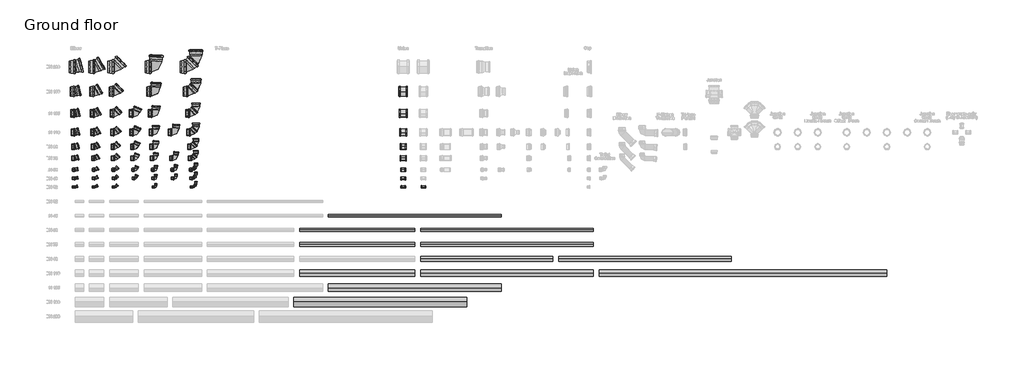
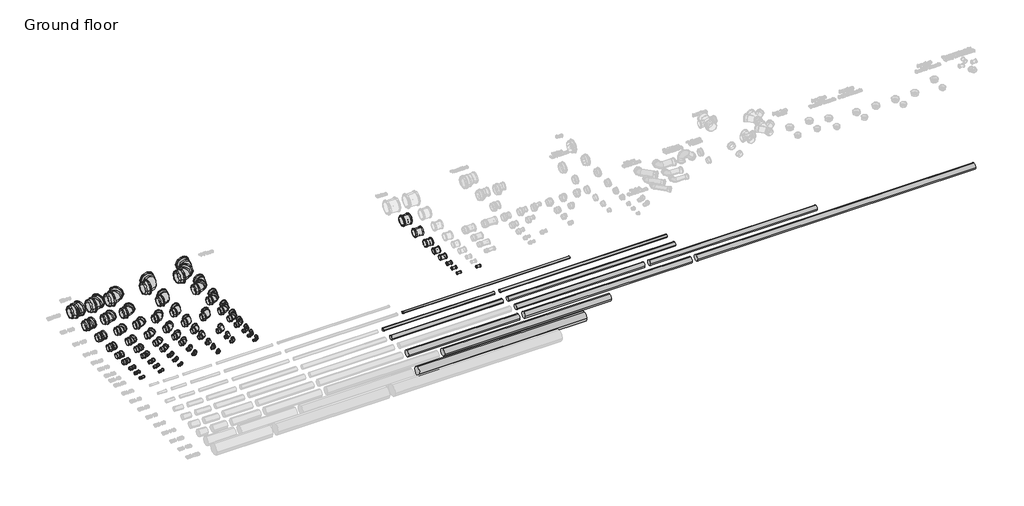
# One storey, part 2 of 9: 73 pipe fittings, 12 pipe segments.
"""IFC4 building model written with IfcOpenShell, lengths in millimetres."""

from ifc_helpers import new_model, si_unit, point, frame, frame_2d, origin, place, context, project, spatial, circle_curve, trimmed, segment, composite_curve, outline, extrude, transform, mapped, element, save
from components import rpp_0c612c17, rpp_c877f22e, rpp_06d6b4b1, rpp_df02b0ba, rpp_cbc30ce8, rpp_6e70d59e, rpp_6ae6ac8c, rpp_a5cbb0f9, rpp_84a9ba76, rpp_5fe12256, rpp_f83cce01, rpp_75d199fe, rpp_5285ed11, rpp_97674159, rpp_16dab9d7, rpp_6b59349f, rpp_5e2e64cf, rpp_0082672b, rpp_add493c2, rpp_b21e3a91, rpp_3f5632bd, rpp_f0f5f403, rpp_70257316, rpp_7ac03bf6, rpp_7928c06b, rpp_419d8c31, rpp_e562054b, rpp_2c8e5e39, rpp_fd2b5315, rpp_0ef57ba2, rpp_faf4a86c, rpp_43926e8d, rpp_54957289, rpp_1a07046c, rpp_2e0a0249, rpp_8358bbfe, rpp_47b7cab4, rpp_9e0b4bd6, rpp_d04c1ebb, rpp_31e62ba4, rpp_015da664, rpp_1f847ae8, rpp_570f9ba4, rpp_260d73b4, rpp_eaa9c95d, rpp_c4f2875f, rpp_8af34354, rpp_c20ba653, rpp_37d01bf3, rpp_2288d6af, rpp_f37a2bfc, rpp_27557139, rpp_dd20bded, rpp_5b691334, rpp_96adb8f6, rpp_3cfaf62b, rpp_a2276557, rpp_016cef04, rpp_9b603699, rpp_967ad729, rpp_dd01ceee, rpp_bc04890f, rpp_4773ea2c, rpp_0868c568

model = new_model("IFC4")

# Units and contexts
model_context = context("Model", 3, world=origin())
ifc_project = project(units=[si_unit("LENGTHUNIT", "METRE", prefix="MILLI")], contexts=[model_context])

# Site, building, storey
site = spatial("IfcSite", under=ifc_project)
building = spatial("IfcBuilding", under=site)
storey = spatial("IfcBuildingStorey", under=building, Name="Ground floor", Elevation=0.0)

# Pipe fittings
placement = place(None, origin())
rpp_shape = rpp_0c612c17(model_context)
element("IfcPipeFitting", 1, ObjectType="RAUPIANO PLUS Double socket : RPP", at=placement, inside=storey, context=model_context, shape_type="MappedRepresentation", body=[
    mapped(rpp_shape, transform((6050.0, 0.0, 0.0), x_axis=(1.0, 0.0, 0.0), y_axis=(0.0, 0.0, 1.0), z_axis=(0.0, -1.0, 0.0))),
])
rpp_2_shape = rpp_c877f22e(model_context)
element("IfcPipeFitting", 2, ObjectType="RAUPIANO PLUS Double socket : RPP", at=placement, inside=storey, context=model_context, shape_type="MappedRepresentation", body=[
    mapped(rpp_2_shape, transform((5700.0, 150.0, 0.0), x_axis=(1.0, 0.0, 0.0), y_axis=(0.0, 0.0, 1.0), z_axis=(0.0, -1.0, 0.0))),
])
rpp_3_shape = rpp_06d6b4b1(model_context)
element("IfcPipeFitting", 3, ObjectType="RAUPIANO PLUS Double socket : RPP", at=placement, inside=storey, context=model_context, shape_type="MappedRepresentation", body=[
    mapped(rpp_3_shape, transform((5700.0, 300.0, 0.0), x_axis=(1.0, 0.0, 0.0), y_axis=(0.0, 0.0, 1.0), z_axis=(0.0, -1.0, 0.0))),
])
rpp_4_shape = rpp_df02b0ba(model_context)
element("IfcPipeFitting", 4, ObjectType="RAUPIANO PLUS Double socket : RPP", at=placement, inside=storey, context=model_context, shape_type="MappedRepresentation", body=[
    mapped(rpp_4_shape, transform((5700.0, 500.0, 0.0), x_axis=(1.0, 0.0, 0.0), y_axis=(0.0, 0.0, 1.0), z_axis=(0.0, -1.0, 0.0))),
])
rpp_5_shape = rpp_cbc30ce8(model_context)
element("IfcPipeFitting", 5, ObjectType="RAUPIANO PLUS Double socket : RPP", at=placement, inside=storey, context=model_context, shape_type="MappedRepresentation", body=[
    mapped(rpp_5_shape, transform((5700.0, 700.0, 0.0), x_axis=(1.0, 0.0, 0.0), y_axis=(0.0, 0.0, 1.0), z_axis=(0.0, -1.0, 0.0))),
])
rpp_6_shape = rpp_6e70d59e(model_context)
element("IfcPipeFitting", 6, ObjectType="RAUPIANO PLUS Double socket : RPP", at=placement, inside=storey, context=model_context, shape_type="MappedRepresentation", body=[
    mapped(rpp_6_shape, transform((5700.0, 950.0, 0.0), x_axis=(1.0, 0.0, 0.0), y_axis=(0.0, 0.0, 1.0), z_axis=(0.0, -1.0, 0.0))),
])
rpp_7_shape = rpp_6ae6ac8c(model_context)
element("IfcPipeFitting", 7, ObjectType="RAUPIANO PLUS Double socket : RPP", at=placement, inside=storey, context=model_context, shape_type="MappedRepresentation", body=[
    mapped(rpp_7_shape, transform((5700.0, 1280.0, 0.0), x_axis=(1.0, 0.0, 0.0), y_axis=(0.0, 0.0, 1.0), z_axis=(0.0, -1.0, 0.0))),
])
rpp_8_shape = rpp_a5cbb0f9(model_context)
element("IfcPipeFitting", 8, ObjectType="RAUPIANO PLUS Double socket : RPP", at=placement, inside=storey, context=model_context, shape_type="MappedRepresentation", body=[
    mapped(rpp_8_shape, transform((5700.0, 1660.0, 0.0), x_axis=(1.0, 0.0, 0.0), y_axis=(0.0, 0.0, 1.0), z_axis=(0.0, -1.0, 0.0))),
])
rpp_9_shape = rpp_84a9ba76(model_context)
element("IfcPipeFitting", 9, ObjectType="RAUPIANO PLUS Bend : RPP", at=placement, inside=storey, context=model_context, shape_type="MappedRepresentation", body=[
    mapped(rpp_9_shape, transform((700.0, 0.0, 0.0), x_axis=(1.0, 0.0, 0.0), y_axis=(0.0, 1.0, 0.0), z_axis=(0.0, 0.0, 1.0))),
])
element("IfcPipeFitting", 10, ObjectType="RAUPIANO PLUS Bend : RPP", at=placement, inside=storey, context=model_context, shape_type="MappedRepresentation", body=[
    mapped(rpp_9_shape, transform((2054.4198969, 0.0, 0.0), x_axis=(1.0, 0.0, 0.0), y_axis=(0.0, 1.0, 0.0), z_axis=(0.0, 0.0, 1.0))),
])
rpp_10_shape = rpp_5fe12256(model_context)
element("IfcPipeFitting", 11, ObjectType="RAUPIANO PLUS Bend : RPP", at=placement, inside=storey, context=model_context, shape_type="MappedRepresentation", body=[
    mapped(rpp_10_shape, transform((2100.0, 45.5801031, 0.0), x_axis=(0.707106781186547, 0.7071067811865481, 0.0), y_axis=(-0.7071067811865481, 0.707106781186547, 0.0), z_axis=(0.0, 0.0, 1.0))),
])
rpp_11_shape = rpp_f83cce01(model_context)
element("IfcPipeFitting", 12, ObjectType="RAUPIANO PLUS Bend : RPP", at=placement, inside=storey, context=model_context, shape_type="MappedRepresentation", body=[
    mapped(rpp_11_shape, transform((700.0, 150.0, 0.0), x_axis=(1.0, 0.0, 0.0), y_axis=(0.0, 1.0, 0.0), z_axis=(0.0, 0.0, 1.0))),
])
element("IfcPipeFitting", 13, ObjectType="RAUPIANO PLUS Bend : RPP", at=placement, inside=storey, context=model_context, shape_type="MappedRepresentation", body=[
    mapped(rpp_11_shape, transform((2046.9669914, 150.0, 0.0), x_axis=(1.0, 0.0, 0.0), y_axis=(0.0, 1.0, 0.0), z_axis=(0.0, 0.0, 1.0))),
])
rpp_12_shape = rpp_75d199fe(model_context)
element("IfcPipeFitting", 14, ObjectType="RAUPIANO PLUS Bend : RPP", at=placement, inside=storey, context=model_context, shape_type="MappedRepresentation", body=[
    mapped(rpp_12_shape, transform((2100.0, 203.0330086, 0.0), x_axis=(0.707106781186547, 0.7071067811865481, 0.0), y_axis=(-0.7071067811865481, 0.707106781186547, 0.0), z_axis=(0.0, 0.0, 1.0))),
])
rpp_13_shape = rpp_5285ed11(model_context)
element("IfcPipeFitting", 15, ObjectType="RAUPIANO PLUS Bend : RPP", at=placement, inside=storey, context=model_context, shape_type="MappedRepresentation", body=[
    mapped(rpp_13_shape, transform((700.0, 300.0, 0.0), x_axis=(1.0, 0.0, 0.0), y_axis=(0.0, 1.0, 0.0), z_axis=(0.0, 0.0, 1.0))),
])
element("IfcPipeFitting", 16, ObjectType="RAUPIANO PLUS Bend : RPP", at=placement, inside=storey, context=model_context, shape_type="MappedRepresentation", body=[
    mapped(rpp_13_shape, transform((2043.4314575, 300.0, 0.0), x_axis=(1.0, 0.0, 0.0), y_axis=(0.0, 1.0, 0.0), z_axis=(0.0, 0.0, 1.0))),
])
rpp_14_shape = rpp_97674159(model_context)
element("IfcPipeFitting", 17, ObjectType="RAUPIANO PLUS Bend : RPP", at=placement, inside=storey, context=model_context, shape_type="MappedRepresentation", body=[
    mapped(rpp_14_shape, transform((2100.0, 356.5685425, 0.0), x_axis=(0.707106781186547, 0.7071067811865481, 0.0), y_axis=(-0.7071067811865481, 0.707106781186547, 0.0), z_axis=(0.0, 0.0, 1.0))),
])
rpp_15_shape = rpp_16dab9d7(model_context)
element("IfcPipeFitting", 18, ObjectType="RAUPIANO PLUS Bend : RPP", at=placement, inside=storey, context=model_context, shape_type="MappedRepresentation", body=[
    mapped(rpp_15_shape, transform((700.0, 500.0, 0.0), x_axis=(1.0, 0.0, 0.0), y_axis=(0.0, 1.0, 0.0), z_axis=(0.0, 0.0, 1.0))),
])
element("IfcPipeFitting", 19, ObjectType="RAUPIANO PLUS Bend : RPP", at=placement, inside=storey, context=model_context, shape_type="MappedRepresentation", body=[
    mapped(rpp_15_shape, transform((2035.9361256, 500.0, 0.0), x_axis=(1.0, 0.0, 0.0), y_axis=(0.0, 1.0, 0.0), z_axis=(0.0, 0.0, 1.0))),
])
rpp_16_shape = rpp_6b59349f(model_context)
element("IfcPipeFitting", 20, ObjectType="RAUPIANO PLUS Bend : RPP", at=placement, inside=storey, context=model_context, shape_type="MappedRepresentation", body=[
    mapped(rpp_16_shape, transform((2100.0, 564.0638744, 0.0), x_axis=(0.707106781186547, 0.7071067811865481, 0.0), y_axis=(-0.7071067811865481, 0.707106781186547, 0.0), z_axis=(0.0, 0.0, 1.0))),
])
rpp_17_shape = rpp_5e2e64cf(model_context)
element("IfcPipeFitting", 21, ObjectType="RAUPIANO PLUS Bend : RPP", at=placement, inside=storey, context=model_context, shape_type="MappedRepresentation", body=[
    mapped(rpp_17_shape, transform((700.0, 700.0, 0.0), x_axis=(1.0, 0.0, 0.0), y_axis=(0.0, 1.0, 0.0), z_axis=(0.0, 0.0, 1.0))),
])
element("IfcPipeFitting", 22, ObjectType="RAUPIANO PLUS Bend : RPP", at=placement, inside=storey, context=model_context, shape_type="MappedRepresentation", body=[
    mapped(rpp_17_shape, transform((2030.7035354, 700.0, 0.0), x_axis=(1.0, 0.0, 0.0), y_axis=(0.0, 1.0, 0.0), z_axis=(0.0, 0.0, 1.0))),
])
rpp_18_shape = rpp_0082672b(model_context)
element("IfcPipeFitting", 23, ObjectType="RAUPIANO PLUS Bend : RPP", at=placement, inside=storey, context=model_context, shape_type="MappedRepresentation", body=[
    mapped(rpp_18_shape, transform((2100.0, 769.2964646, 0.0), x_axis=(0.707106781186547, 0.7071067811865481, 0.0), y_axis=(-0.7071067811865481, 0.707106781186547, 0.0), z_axis=(0.0, 0.0, 1.0))),
])
rpp_19_shape = rpp_add493c2(model_context)
element("IfcPipeFitting", 24, ObjectType="RAUPIANO PLUS Bend : RPP", at=placement, inside=storey, context=model_context, shape_type="MappedRepresentation", body=[
    mapped(rpp_19_shape, transform((700.0, 950.0, 0.0), x_axis=(1.0, 0.0, 0.0), y_axis=(0.0, 1.0, 0.0), z_axis=(0.0, 0.0, 1.0))),
])
element("IfcPipeFitting", 25, ObjectType="RAUPIANO PLUS Bend : RPP", at=placement, inside=storey, context=model_context, shape_type="MappedRepresentation", body=[
    mapped(rpp_19_shape, transform((2022.1475434, 950.0, 0.0), x_axis=(1.0, 0.0, 0.0), y_axis=(0.0, 1.0, 0.0), z_axis=(0.0, 0.0, 1.0))),
])
rpp_20_shape = rpp_b21e3a91(model_context)
element("IfcPipeFitting", 26, ObjectType="RAUPIANO PLUS Bend : RPP", at=placement, inside=storey, context=model_context, shape_type="MappedRepresentation", body=[
    mapped(rpp_20_shape, transform((2100.0, 1027.8524566, 0.0), x_axis=(0.707106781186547, 0.7071067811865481, 0.0), y_axis=(-0.7071067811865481, 0.707106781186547, 0.0), z_axis=(0.0, 0.0, 1.0))),
])
rpp_21_shape = rpp_3f5632bd(model_context)
element("IfcPipeFitting", 27, ObjectType="RAUPIANO PLUS Bend : RPP", at=placement, inside=storey, context=model_context, shape_type="MappedRepresentation", body=[
    mapped(rpp_21_shape, transform((700.0, 1280.0, 0.0), x_axis=(1.0, 0.0, 0.0), y_axis=(0.0, 1.0, 0.0), z_axis=(0.0, 0.0, 1.0))),
])
element("IfcPipeFitting", 28, ObjectType="RAUPIANO PLUS Bend : RPP", at=placement, inside=storey, context=model_context, shape_type="MappedRepresentation", body=[
    mapped(rpp_21_shape, transform((2013.45013, 1280.0, 0.0), x_axis=(1.0, 0.0, 0.0), y_axis=(0.0, 1.0, 0.0), z_axis=(0.0, 0.0, 1.0))),
])
rpp_22_shape = rpp_f0f5f403(model_context)
element("IfcPipeFitting", 29, ObjectType="RAUPIANO PLUS Bend : RPP", at=placement, inside=storey, context=model_context, shape_type="MappedRepresentation", body=[
    mapped(rpp_22_shape, transform((2100.0, 1366.54987, 0.0), x_axis=(0.707106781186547, 0.7071067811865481, 0.0), y_axis=(-0.7071067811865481, 0.707106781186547, 0.0), z_axis=(0.0, 0.0, 1.0))),
])
rpp_23_shape = rpp_70257316(model_context)
element("IfcPipeFitting", 30, ObjectType="RAUPIANO PLUS Bend : RPP", at=placement, inside=storey, context=model_context, shape_type="MappedRepresentation", body=[
    mapped(rpp_23_shape, transform((700.0, 1660.0, 0.0), x_axis=(1.0, 0.0, 0.0), y_axis=(0.0, 1.0, 0.0), z_axis=(0.0, 0.0, 1.0))),
])
element("IfcPipeFitting", 31, ObjectType="RAUPIANO PLUS Bend : RPP", at=placement, inside=storey, context=model_context, shape_type="MappedRepresentation", body=[
    mapped(rpp_23_shape, transform((1991.1055557, 1660.0, 0.0), x_axis=(1.0, 0.0, 0.0), y_axis=(0.0, 1.0, 0.0), z_axis=(0.0, 0.0, 1.0))),
])
rpp_24_shape = rpp_7ac03bf6(model_context)
element("IfcPipeFitting", 32, ObjectType="RAUPIANO PLUS Bend : RPP", at=placement, inside=storey, context=model_context, shape_type="MappedRepresentation", body=[
    mapped(rpp_24_shape, transform((2100.0, 1768.8944443, 0.0), x_axis=(0.707106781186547, 0.7071067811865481, 0.0), y_axis=(-0.7071067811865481, 0.707106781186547, 0.0), z_axis=(0.0, 0.0, 1.0))),
])
rpp_25_shape = rpp_7928c06b(model_context)
element("IfcPipeFitting", 33, ObjectType="RAUPIANO PLUS Bend : RPP", at=placement, inside=storey, context=model_context, shape_type="MappedRepresentation", body=[
    mapped(rpp_25_shape, transform((700.0, 2090.0, 0.0), x_axis=(1.0, 0.0, 0.0), y_axis=(0.0, 1.0, 0.0), z_axis=(0.0, 0.0, 1.0))),
])
element("IfcPipeFitting", 34, ObjectType="RAUPIANO PLUS Bend : RPP", at=placement, inside=storey, context=model_context, shape_type="MappedRepresentation", body=[
    mapped(rpp_25_shape, transform((1951.507576, 2090.0, 0.0), x_axis=(1.0, 0.0, 0.0), y_axis=(0.0, 1.0, 0.0), z_axis=(0.0, 0.0, 1.0))),
])
rpp_26_shape = rpp_419d8c31(model_context)
element("IfcPipeFitting", 35, ObjectType="RAUPIANO PLUS Bend : RPP", at=placement, inside=storey, context=model_context, shape_type="MappedRepresentation", body=[
    mapped(rpp_26_shape, transform((2100.0, 2238.492424, 0.0), x_axis=(0.707106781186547, 0.7071067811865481, 0.0), y_axis=(-0.7071067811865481, 0.707106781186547, 0.0), z_axis=(0.0, 0.0, 1.0))),
])
rpp_27_shape = rpp_e562054b(model_context)
element("IfcPipeFitting", 36, ObjectType="RAUPIANO PLUS Bend : RPP", at=placement, inside=storey, context=model_context, shape_type="MappedRepresentation", body=[
    mapped(rpp_27_shape, transform((0.0, 0.0, 0.0), x_axis=(1.0, 0.0, 0.0), y_axis=(0.0, 1.0, 0.0), z_axis=(0.0, 0.0, 1.0))),
])
rpp_28_shape = rpp_2c8e5e39(model_context)
element("IfcPipeFitting", 37, ObjectType="RAUPIANO PLUS Bend : RPP", at=placement, inside=storey, context=model_context, shape_type="MappedRepresentation", body=[
    mapped(rpp_28_shape, transform((350.0, 0.0, 0.0), x_axis=(1.0, 0.0, 0.0), y_axis=(0.0, 1.0, 0.0), z_axis=(0.0, 0.0, 1.0))),
])
rpp_29_shape = rpp_fd2b5315(model_context)
element("IfcPipeFitting", 38, ObjectType="RAUPIANO PLUS Bend : RPP", at=placement, inside=storey, context=model_context, shape_type="MappedRepresentation", body=[
    mapped(rpp_29_shape, transform((1400.0, 0.0, 0.0), x_axis=(1.0, 0.0, 0.0), y_axis=(0.0, 1.0, 0.0), z_axis=(0.0, 0.0, 1.0))),
])
rpp_30_shape = rpp_0ef57ba2(model_context)
element("IfcPipeFitting", 39, ObjectType="RAUPIANO PLUS Bend : RPP", at=placement, inside=storey, context=model_context, shape_type="MappedRepresentation", body=[
    mapped(rpp_30_shape, transform((0.0, 150.0, 0.0), x_axis=(1.0, 0.0, 0.0), y_axis=(0.0, 1.0, 0.0), z_axis=(0.0, 0.0, 1.0))),
])
rpp_31_shape = rpp_faf4a86c(model_context)
element("IfcPipeFitting", 40, ObjectType="RAUPIANO PLUS Bend : RPP", at=placement, inside=storey, context=model_context, shape_type="MappedRepresentation", body=[
    mapped(rpp_31_shape, transform((350.0, 150.0, 0.0), x_axis=(1.0, 0.0, 0.0), y_axis=(0.0, 1.0, 0.0), z_axis=(0.0, 0.0, 1.0))),
])
rpp_32_shape = rpp_43926e8d(model_context)
element("IfcPipeFitting", 41, ObjectType="RAUPIANO PLUS Bend : RPP", at=placement, inside=storey, context=model_context, shape_type="MappedRepresentation", body=[
    mapped(rpp_32_shape, transform((1400.0, 150.0, 0.0), x_axis=(1.0, 0.0, 0.0), y_axis=(0.0, 1.0, 0.0), z_axis=(0.0, 0.0, 1.0))),
])
rpp_33_shape = rpp_54957289(model_context)
element("IfcPipeFitting", 42, ObjectType="RAUPIANO PLUS Bend : RPP", at=placement, inside=storey, context=model_context, shape_type="MappedRepresentation", body=[
    mapped(rpp_33_shape, transform((1050.0, 150.0, 0.0), x_axis=(1.0, 0.0, 0.0), y_axis=(0.0, 1.0, 0.0), z_axis=(0.0, 0.0, 1.0))),
])
rpp_34_shape = rpp_1a07046c(model_context)
element("IfcPipeFitting", 43, ObjectType="RAUPIANO PLUS Bend : RPP", at=placement, inside=storey, context=model_context, shape_type="MappedRepresentation", body=[
    mapped(rpp_34_shape, transform((0.0, 300.0, 0.0), x_axis=(1.0, 0.0, 0.0), y_axis=(0.0, 1.0, 0.0), z_axis=(0.0, 0.0, 1.0))),
])
rpp_35_shape = rpp_2e0a0249(model_context)
element("IfcPipeFitting", 44, ObjectType="RAUPIANO PLUS Bend : RPP", at=placement, inside=storey, context=model_context, shape_type="MappedRepresentation", body=[
    mapped(rpp_35_shape, transform((350.0, 300.0, 0.0), x_axis=(1.0, 0.0, 0.0), y_axis=(0.0, 1.0, 0.0), z_axis=(0.0, 0.0, 1.0))),
])
rpp_36_shape = rpp_8358bbfe(model_context)
element("IfcPipeFitting", 45, ObjectType="RAUPIANO PLUS Bend : RPP", at=placement, inside=storey, context=model_context, shape_type="MappedRepresentation", body=[
    mapped(rpp_36_shape, transform((1400.0, 300.0, 0.0), x_axis=(1.0, 0.0, 0.0), y_axis=(0.0, 1.0, 0.0), z_axis=(0.0, 0.0, 1.0))),
])
rpp_37_shape = rpp_47b7cab4(model_context)
element("IfcPipeFitting", 46, ObjectType="RAUPIANO PLUS Bend : RPP", at=placement, inside=storey, context=model_context, shape_type="MappedRepresentation", body=[
    mapped(rpp_37_shape, transform((1050.0, 300.0, 0.0), x_axis=(1.0, 0.0, 0.0), y_axis=(0.0, 1.0, 0.0), z_axis=(0.0, 0.0, 1.0))),
])
rpp_38_shape = rpp_9e0b4bd6(model_context)
element("IfcPipeFitting", 47, ObjectType="RAUPIANO PLUS Bend : RPP", at=placement, inside=storey, context=model_context, shape_type="MappedRepresentation", body=[
    mapped(rpp_38_shape, transform((0.0, 500.0, 0.0), x_axis=(1.0, 0.0, 0.0), y_axis=(0.0, 1.0, 0.0), z_axis=(0.0, 0.0, 1.0))),
])
rpp_39_shape = rpp_d04c1ebb(model_context)
element("IfcPipeFitting", 48, ObjectType="RAUPIANO PLUS Bend : RPP", at=placement, inside=storey, context=model_context, shape_type="MappedRepresentation", body=[
    mapped(rpp_39_shape, transform((350.0, 500.0, 0.0), x_axis=(1.0, 0.0, 0.0), y_axis=(0.0, 1.0, 0.0), z_axis=(0.0, 0.0, 1.0))),
])
rpp_40_shape = rpp_31e62ba4(model_context)
element("IfcPipeFitting", 49, ObjectType="RAUPIANO PLUS Bend : RPP", at=placement, inside=storey, context=model_context, shape_type="MappedRepresentation", body=[
    mapped(rpp_40_shape, transform((1400.0, 500.0, 0.0), x_axis=(1.0, 0.0, 0.0), y_axis=(0.0, 1.0, 0.0), z_axis=(0.0, 0.0, 1.0))),
])
rpp_41_shape = rpp_015da664(model_context)
element("IfcPipeFitting", 50, ObjectType="RAUPIANO PLUS Bend : RPP", at=placement, inside=storey, context=model_context, shape_type="MappedRepresentation", body=[
    mapped(rpp_41_shape, transform((1050.0, 500.0, 0.0), x_axis=(1.0, 0.0, 0.0), y_axis=(0.0, 1.0, 0.0), z_axis=(0.0, 0.0, 1.0))),
])
rpp_42_shape = rpp_1f847ae8(model_context)
element("IfcPipeFitting", 51, ObjectType="RAUPIANO PLUS Bend : RPP", at=placement, inside=storey, context=model_context, shape_type="MappedRepresentation", body=[
    mapped(rpp_42_shape, transform((0.0, 700.0, 0.0), x_axis=(1.0, 0.0, 0.0), y_axis=(0.0, 1.0, 0.0), z_axis=(0.0, 0.0, 1.0))),
])
rpp_43_shape = rpp_570f9ba4(model_context)
element("IfcPipeFitting", 52, ObjectType="RAUPIANO PLUS Bend : RPP", at=placement, inside=storey, context=model_context, shape_type="MappedRepresentation", body=[
    mapped(rpp_43_shape, transform((350.0, 700.0, 0.0), x_axis=(1.0, 0.0, 0.0), y_axis=(0.0, 1.0, 0.0), z_axis=(0.0, 0.0, 1.0))),
])
rpp_44_shape = rpp_260d73b4(model_context)
element("IfcPipeFitting", 53, ObjectType="RAUPIANO PLUS Bend : RPP", at=placement, inside=storey, context=model_context, shape_type="MappedRepresentation", body=[
    mapped(rpp_44_shape, transform((1400.0, 700.0, 0.0), x_axis=(1.0, 0.0, 0.0), y_axis=(0.0, 1.0, 0.0), z_axis=(0.0, 0.0, 1.0))),
])
rpp_45_shape = rpp_eaa9c95d(model_context)
element("IfcPipeFitting", 54, ObjectType="RAUPIANO PLUS Bend : RPP", at=placement, inside=storey, context=model_context, shape_type="MappedRepresentation", body=[
    mapped(rpp_45_shape, transform((1050.0, 700.0, 0.0), x_axis=(1.0, 0.0, 0.0), y_axis=(0.0, 1.0, 0.0), z_axis=(0.0, 0.0, 1.0))),
])
rpp_46_shape = rpp_c4f2875f(model_context)
element("IfcPipeFitting", 55, ObjectType="RAUPIANO PLUS Bend : RPP", at=placement, inside=storey, context=model_context, shape_type="MappedRepresentation", body=[
    mapped(rpp_46_shape, transform((0.0, 950.0, 0.0), x_axis=(1.0, 0.0, 0.0), y_axis=(0.0, 1.0, 0.0), z_axis=(0.0, 0.0, 1.0))),
])
rpp_47_shape = rpp_8af34354(model_context)
element("IfcPipeFitting", 56, ObjectType="RAUPIANO PLUS Bend : RPP", at=placement, inside=storey, context=model_context, shape_type="MappedRepresentation", body=[
    mapped(rpp_47_shape, transform((350.0, 950.0, 0.0), x_axis=(1.0, 0.0, 0.0), y_axis=(0.0, 1.0, 0.0), z_axis=(0.0, 0.0, 1.0))),
])
rpp_48_shape = rpp_c20ba653(model_context)
element("IfcPipeFitting", 57, ObjectType="RAUPIANO PLUS Bend : RPP", at=placement, inside=storey, context=model_context, shape_type="MappedRepresentation", body=[
    mapped(rpp_48_shape, transform((1400.0, 950.0, 0.0), x_axis=(1.0, 0.0, 0.0), y_axis=(0.0, 1.0, 0.0), z_axis=(0.0, 0.0, 1.0))),
])
rpp_49_shape = rpp_37d01bf3(model_context)
element("IfcPipeFitting", 58, ObjectType="RAUPIANO PLUS Bend : RPP", at=placement, inside=storey, context=model_context, shape_type="MappedRepresentation", body=[
    mapped(rpp_49_shape, transform((1050.0, 950.0, 0.0), x_axis=(1.0, 0.0, 0.0), y_axis=(0.0, 1.0, 0.0), z_axis=(0.0, 0.0, 1.0))),
])
rpp_50_shape = rpp_2288d6af(model_context)
element("IfcPipeFitting", 59, ObjectType="RAUPIANO PLUS Bend : RPP", at=placement, inside=storey, context=model_context, shape_type="MappedRepresentation", body=[
    mapped(rpp_50_shape, transform((0.0, 1280.0, 0.0), x_axis=(1.0, 0.0, 0.0), y_axis=(0.0, 1.0, 0.0), z_axis=(0.0, 0.0, 1.0))),
])
rpp_51_shape = rpp_f37a2bfc(model_context)
element("IfcPipeFitting", 60, ObjectType="RAUPIANO PLUS Bend : RPP", at=placement, inside=storey, context=model_context, shape_type="MappedRepresentation", body=[
    mapped(rpp_51_shape, transform((350.0, 1280.0, 0.0), x_axis=(1.0, 0.0, 0.0), y_axis=(0.0, 1.0, 0.0), z_axis=(0.0, 0.0, 1.0))),
])
rpp_52_shape = rpp_27557139(model_context)
element("IfcPipeFitting", 61, ObjectType="RAUPIANO PLUS Bend : RPP", at=placement, inside=storey, context=model_context, shape_type="MappedRepresentation", body=[
    mapped(rpp_52_shape, transform((1400.0, 1280.0, 0.0), x_axis=(1.0, 0.0, 0.0), y_axis=(0.0, 1.0, 0.0), z_axis=(0.0, 0.0, 1.0))),
])
rpp_53_shape = rpp_dd20bded(model_context)
element("IfcPipeFitting", 62, ObjectType="RAUPIANO PLUS Bend : RPP", at=placement, inside=storey, context=model_context, shape_type="MappedRepresentation", body=[
    mapped(rpp_53_shape, transform((1050.0, 1280.0, 0.0), x_axis=(1.0, 0.0, 0.0), y_axis=(0.0, 1.0, 0.0), z_axis=(0.0, 0.0, 1.0))),
])
rpp_54_shape = rpp_5b691334(model_context)
element("IfcPipeFitting", 63, ObjectType="RAUPIANO PLUS Bend : RPP", at=placement, inside=storey, context=model_context, shape_type="MappedRepresentation", body=[
    mapped(rpp_54_shape, transform((0.0, 1660.0, 0.0), x_axis=(1.0, 0.0, 0.0), y_axis=(0.0, 1.0, 0.0), z_axis=(0.0, 0.0, 1.0))),
])
rpp_55_shape = rpp_96adb8f6(model_context)
element("IfcPipeFitting", 64, ObjectType="RAUPIANO PLUS Bend : RPP", at=placement, inside=storey, context=model_context, shape_type="MappedRepresentation", body=[
    mapped(rpp_55_shape, transform((350.0, 1660.0, 0.0), x_axis=(1.0, 0.0, 0.0), y_axis=(0.0, 1.0, 0.0), z_axis=(0.0, 0.0, 1.0))),
])
rpp_56_shape = rpp_3cfaf62b(model_context)
element("IfcPipeFitting", 65, ObjectType="RAUPIANO PLUS Bend : RPP", at=placement, inside=storey, context=model_context, shape_type="MappedRepresentation", body=[
    mapped(rpp_56_shape, transform((1400.0, 1660.0, 0.0), x_axis=(1.0, 0.0, 0.0), y_axis=(0.0, 1.0, 0.0), z_axis=(0.0, 0.0, 1.0))),
])
rpp_57_shape = rpp_a2276557(model_context)
element("IfcPipeFitting", 66, ObjectType="RAUPIANO PLUS Bend : RPP", at=placement, inside=storey, context=model_context, shape_type="MappedRepresentation", body=[
    mapped(rpp_57_shape, transform((0.0, 2090.0, 0.0), x_axis=(1.0, 0.0, 0.0), y_axis=(0.0, 1.0, 0.0), z_axis=(0.0, 0.0, 1.0))),
])
rpp_58_shape = rpp_016cef04(model_context)
element("IfcPipeFitting", 67, ObjectType="RAUPIANO PLUS Bend : RPP", at=placement, inside=storey, context=model_context, shape_type="MappedRepresentation", body=[
    mapped(rpp_58_shape, transform((350.0, 2090.0, 0.0), x_axis=(1.0, 0.0, 0.0), y_axis=(0.0, 1.0, 0.0), z_axis=(0.0, 0.0, 1.0))),
])
rpp_59_shape = rpp_9b603699(model_context)
element("IfcPipeFitting", 68, ObjectType="RAUPIANO PLUS Bend : RPP", at=placement, inside=storey, context=model_context, shape_type="MappedRepresentation", body=[
    mapped(rpp_59_shape, transform((1400.0, 2090.0, 0.0), x_axis=(1.0, 0.0, 0.0), y_axis=(0.0, 1.0, 0.0), z_axis=(0.0, 0.0, 1.0))),
])
rpp_60_shape = rpp_967ad729(model_context)
element("IfcPipeFitting", 69, ObjectType="RAUPIANO PLUS Bend : RPP", at=placement, inside=storey, context=model_context, shape_type="MappedRepresentation", body=[
    mapped(rpp_60_shape, transform((1750.0, 300.0, 0.0), x_axis=(1.0, 0.0, 0.0), y_axis=(0.0, 1.0, 0.0), z_axis=(0.0, 0.0, 1.0))),
])
rpp_61_shape = rpp_dd01ceee(model_context)
element("IfcPipeFitting", 70, ObjectType="RAUPIANO PLUS Bend : RPP", at=placement, inside=storey, context=model_context, shape_type="MappedRepresentation", body=[
    mapped(rpp_61_shape, transform((1750.0, 500.0, 0.0), x_axis=(1.0, 0.0, 0.0), y_axis=(0.0, 1.0, 0.0), z_axis=(0.0, 0.0, 1.0))),
])
rpp_62_shape = rpp_bc04890f(model_context)
element("IfcPipeFitting", 71, ObjectType="RAUPIANO PLUS Bend : RPP", at=placement, inside=storey, context=model_context, shape_type="MappedRepresentation", body=[
    mapped(rpp_62_shape, transform((1750.0, 150.0, 0.0), x_axis=(1.0, 0.0, 0.0), y_axis=(0.0, 1.0, 0.0), z_axis=(0.0, 0.0, 1.0))),
])
rpp_63_shape = rpp_4773ea2c(model_context)
element("IfcPipeFitting", 72, ObjectType="RAUPIANO PLUS Bend : RPP", at=placement, inside=storey, context=model_context, shape_type="MappedRepresentation", body=[
    mapped(rpp_63_shape, transform((1750.0, 950.0, 0.0), x_axis=(1.0, 0.0, 0.0), y_axis=(0.0, 1.0, 0.0), z_axis=(0.0, 0.0, 1.0))),
])
rpp_64_shape = rpp_0868c568(model_context)
element("IfcPipeFitting", 73, ObjectType="RAUPIANO PLUS Double socket : RPP", at=placement, inside=storey, context=model_context, shape_type="MappedRepresentation", body=[
    mapped(rpp_64_shape, transform((5700.0, 0.0, 0.0), x_axis=(1.0, 0.0, 0.0), y_axis=(0.0, 0.0, 1.0), z_axis=(0.0, -1.0, 0.0))),
])

# Pipe segments
element("IfcPipeSegment", 74, ObjectType="RAUPIANO PLUS", at=placement, inside=storey, context=model_context, shape_type="SweptSolid", body=[
    extrude(outline(composite_curve([segment(trimmed(circle_curve(frame_2d((-500.0, 0.0)), 20.0), [point((-520.0, 0.0))], [point((-500.0, 20.0))], False, "CARTESIAN"), True, "CONTINUOUS"), segment(trimmed(circle_curve(frame_2d((-500.0, 0.0)), 20.0), [point((-500.0, 20.0))], [point((-480.0, 0.0))], False, "CARTESIAN"), True, "CONTINUOUS"), segment(trimmed(circle_curve(frame_2d((-500.0, 0.0)), 20.0), [point((-480.0, 0.0))], [point((-500.0, -20.0))], False, "CARTESIAN"), True, "CONTINUOUS"), segment(trimmed(circle_curve(frame_2d((-500.0, 0.0)), 20.0), [point((-500.0, -20.0))], [point((-520.0, 0.0))], False, "CARTESIAN"), True, "CONTINUOUS")], self_intersect=False)), frame((4400.0, 0.0, 0.0), z_axis=(1.0, 0.0, 0.0), x_axis=(0.0, 1.0, 0.0)), (0.0, 0.0, 1.0), 3000.0),
])
element("IfcPipeSegment", 75, ObjectType="RAUPIANO PLUS", at=placement, inside=storey, context=model_context, shape_type="SweptSolid", body=[
    extrude(outline(composite_curve([segment(trimmed(circle_curve(frame_2d((-750.0, 0.0)), 25.0), [point((-775.0, 0.0))], [point((-750.0, 25.0))], False, "CARTESIAN"), True, "CONTINUOUS"), segment(trimmed(circle_curve(frame_2d((-750.0, 0.0)), 25.0), [point((-750.0, 25.0))], [point((-725.0, 0.0))], False, "CARTESIAN"), True, "CONTINUOUS"), segment(trimmed(circle_curve(frame_2d((-750.0, 0.0)), 25.0), [point((-725.0, 0.0))], [point((-750.0, -25.0))], False, "CARTESIAN"), True, "CONTINUOUS"), segment(trimmed(circle_curve(frame_2d((-750.0, 0.0)), 25.0), [point((-750.0, -25.0))], [point((-775.0, 0.0))], False, "CARTESIAN"), True, "CONTINUOUS")], self_intersect=False)), frame((3900.0, 0.0, 0.0), z_axis=(1.0, 0.0, 0.0), x_axis=(0.0, 1.0, 0.0)), (0.0, 0.0, 1.0), 2000.0),
])
element("IfcPipeSegment", 76, ObjectType="RAUPIANO PLUS", at=placement, inside=storey, context=model_context, shape_type="SweptSolid", body=[
    extrude(outline(composite_curve([segment(trimmed(circle_curve(frame_2d((-750.0, 0.0)), 25.0), [point((-775.0, 0.0))], [point((-750.0, 25.0))], False, "CARTESIAN"), True, "CONTINUOUS"), segment(trimmed(circle_curve(frame_2d((-750.0, 0.0)), 25.0), [point((-750.0, 25.0))], [point((-725.0, 0.0))], False, "CARTESIAN"), True, "CONTINUOUS"), segment(trimmed(circle_curve(frame_2d((-750.0, 0.0)), 25.0), [point((-725.0, 0.0))], [point((-750.0, -25.0))], False, "CARTESIAN"), True, "CONTINUOUS"), segment(trimmed(circle_curve(frame_2d((-750.0, 0.0)), 25.0), [point((-750.0, -25.0))], [point((-775.0, 0.0))], False, "CARTESIAN"), True, "CONTINUOUS")], self_intersect=False)), frame((6000.0, 0.0, 0.0), z_axis=(1.0, 0.0, 0.0), x_axis=(0.0, 1.0, 0.0)), (0.0, 0.0, 1.0), 3000.0),
])
element("IfcPipeSegment", 77, ObjectType="RAUPIANO PLUS", at=placement, inside=storey, context=model_context, shape_type="SweptSolid", body=[
    extrude(outline(composite_curve([segment(trimmed(circle_curve(frame_2d((-1000.0, 0.0)), 37.5), [point((-1037.5, 0.0))], [point((-1000.0, 37.5))], False, "CARTESIAN"), True, "CONTINUOUS"), segment(trimmed(circle_curve(frame_2d((-1000.0, 0.0)), 37.5), [point((-1000.0, 37.5))], [point((-962.5, 0.0))], False, "CARTESIAN"), True, "CONTINUOUS"), segment(trimmed(circle_curve(frame_2d((-1000.0, 0.0)), 37.5), [point((-962.5, 0.0))], [point((-1000.0, -37.5))], False, "CARTESIAN"), True, "CONTINUOUS"), segment(trimmed(circle_curve(frame_2d((-1000.0, 0.0)), 37.5), [point((-1000.0, -37.5))], [point((-1037.5, 0.0))], False, "CARTESIAN"), True, "CONTINUOUS")], self_intersect=False)), frame((3900.0, 0.0, 0.0), z_axis=(1.0, 0.0, 0.0), x_axis=(0.0, 1.0, 0.0)), (0.0, 0.0, 1.0), 2000.0),
])
element("IfcPipeSegment", 78, ObjectType="RAUPIANO PLUS", at=placement, inside=storey, context=model_context, shape_type="SweptSolid", body=[
    extrude(outline(composite_curve([segment(trimmed(circle_curve(frame_2d((-1000.0, 0.0)), 37.5), [point((-1037.5, 0.0))], [point((-1000.0, 37.5))], False, "CARTESIAN"), True, "CONTINUOUS"), segment(trimmed(circle_curve(frame_2d((-1000.0, 0.0)), 37.5), [point((-1000.0, 37.5))], [point((-962.5, 0.0))], False, "CARTESIAN"), True, "CONTINUOUS"), segment(trimmed(circle_curve(frame_2d((-1000.0, 0.0)), 37.5), [point((-962.5, 0.0))], [point((-1000.0, -37.5))], False, "CARTESIAN"), True, "CONTINUOUS"), segment(trimmed(circle_curve(frame_2d((-1000.0, 0.0)), 37.5), [point((-1000.0, -37.5))], [point((-1037.5, 0.0))], False, "CARTESIAN"), True, "CONTINUOUS")], self_intersect=False)), frame((6000.0, 0.0, 0.0), z_axis=(1.0, 0.0, 0.0), x_axis=(0.0, 1.0, 0.0)), (0.0, 0.0, 1.0), 3000.0),
])
element("IfcPipeSegment", 79, ObjectType="RAUPIANO PLUS", at=placement, inside=storey, context=model_context, shape_type="SweptSolid", body=[
    extrude(outline(composite_curve([segment(trimmed(circle_curve(frame_2d((-1250.0, 0.0)), 45.0), [point((-1295.0, 0.0))], [point((-1250.0, 45.0))], False, "CARTESIAN"), True, "CONTINUOUS"), segment(trimmed(circle_curve(frame_2d((-1250.0, 0.0)), 45.0), [point((-1250.0, 45.0))], [point((-1205.0, 0.0))], False, "CARTESIAN"), True, "CONTINUOUS"), segment(trimmed(circle_curve(frame_2d((-1250.0, 0.0)), 45.0), [point((-1205.0, 0.0))], [point((-1250.0, -45.0))], False, "CARTESIAN"), True, "CONTINUOUS"), segment(trimmed(circle_curve(frame_2d((-1250.0, 0.0)), 45.0), [point((-1250.0, -45.0))], [point((-1295.0, 0.0))], False, "CARTESIAN"), True, "CONTINUOUS")], self_intersect=False)), frame((8400.0, 0.0, 0.0), z_axis=(1.0, 0.0, 0.0), x_axis=(0.0, 1.0, 0.0)), (0.0, 0.0, 1.0), 3000.0),
])
element("IfcPipeSegment", 80, ObjectType="RAUPIANO PLUS", at=placement, inside=storey, context=model_context, shape_type="SweptSolid", body=[
    extrude(outline(composite_curve([segment(trimmed(circle_curve(frame_2d((-1250.0, 0.0)), 45.0), [point((-1295.0, 0.0))], [point((-1250.0, 45.0))], False, "CARTESIAN"), True, "CONTINUOUS"), segment(trimmed(circle_curve(frame_2d((-1250.0, 0.0)), 45.0), [point((-1250.0, 45.0))], [point((-1205.0, 0.0))], False, "CARTESIAN"), True, "CONTINUOUS"), segment(trimmed(circle_curve(frame_2d((-1250.0, 0.0)), 45.0), [point((-1205.0, 0.0))], [point((-1250.0, -45.0))], False, "CARTESIAN"), True, "CONTINUOUS"), segment(trimmed(circle_curve(frame_2d((-1250.0, 0.0)), 45.0), [point((-1250.0, -45.0))], [point((-1295.0, 0.0))], False, "CARTESIAN"), True, "CONTINUOUS")], self_intersect=False)), frame((6000.0, 0.0, 0.0), z_axis=(1.0, 0.0, 0.0), x_axis=(0.0, 1.0, 0.0)), (0.0, 0.0, 1.0), 2300.0),
])
element("IfcPipeSegment", 81, ObjectType="RAUPIANO PLUS", at=placement, inside=storey, context=model_context, shape_type="SweptSolid", body=[
    extrude(outline(composite_curve([segment(trimmed(circle_curve(frame_2d((-1500.0, 0.0)), 55.0), [point((-1555.0, 0.0))], [point((-1500.0, 55.0))], False, "CARTESIAN"), True, "CONTINUOUS"), segment(trimmed(circle_curve(frame_2d((-1500.0, 0.0)), 55.0), [point((-1500.0, 55.0))], [point((-1445.0, 0.0))], False, "CARTESIAN"), True, "CONTINUOUS"), segment(trimmed(circle_curve(frame_2d((-1500.0, 0.0)), 55.0), [point((-1445.0, 0.0))], [point((-1500.0, -55.0))], False, "CARTESIAN"), True, "CONTINUOUS"), segment(trimmed(circle_curve(frame_2d((-1500.0, 0.0)), 55.0), [point((-1500.0, -55.0))], [point((-1555.0, 0.0))], False, "CARTESIAN"), True, "CONTINUOUS")], self_intersect=False)), frame((3900.0, 0.0, 0.0), z_axis=(1.0, 0.0, 0.0), x_axis=(0.0, 1.0, 0.0)), (0.0, 0.0, 1.0), 2000.0),
])
element("IfcPipeSegment", 82, ObjectType="RAUPIANO PLUS", at=placement, inside=storey, context=model_context, shape_type="SweptSolid", body=[
    extrude(outline(composite_curve([segment(trimmed(circle_curve(frame_2d((-1500.0, 0.0)), 55.0), [point((-1555.0, 0.0))], [point((-1500.0, 55.0))], False, "CARTESIAN"), True, "CONTINUOUS"), segment(trimmed(circle_curve(frame_2d((-1500.0, 0.0)), 55.0), [point((-1500.0, 55.0))], [point((-1445.0, 0.0))], False, "CARTESIAN"), True, "CONTINUOUS"), segment(trimmed(circle_curve(frame_2d((-1500.0, 0.0)), 55.0), [point((-1445.0, 0.0))], [point((-1500.0, -55.0))], False, "CARTESIAN"), True, "CONTINUOUS"), segment(trimmed(circle_curve(frame_2d((-1500.0, 0.0)), 55.0), [point((-1500.0, -55.0))], [point((-1555.0, 0.0))], False, "CARTESIAN"), True, "CONTINUOUS")], self_intersect=False)), frame((6000.0, 0.0, 0.0), z_axis=(1.0, 0.0, 0.0), x_axis=(0.0, 1.0, 0.0)), (0.0, 0.0, 1.0), 3000.0),
])
element("IfcPipeSegment", 83, ObjectType="RAUPIANO PLUS", at=placement, inside=storey, context=model_context, shape_type="SweptSolid", body=[
    extrude(outline(composite_curve([segment(trimmed(circle_curve(frame_2d((-1750.0, 0.0)), 62.5), [point((-1812.5, 0.0))], [point((-1750.0, 62.5))], False, "CARTESIAN"), True, "CONTINUOUS"), segment(trimmed(circle_curve(frame_2d((-1750.0, 0.0)), 62.5), [point((-1750.0, 62.5))], [point((-1687.5, 0.0))], False, "CARTESIAN"), True, "CONTINUOUS"), segment(trimmed(circle_curve(frame_2d((-1750.0, 0.0)), 62.5), [point((-1687.5, 0.0))], [point((-1750.0, -62.5))], False, "CARTESIAN"), True, "CONTINUOUS"), segment(trimmed(circle_curve(frame_2d((-1750.0, 0.0)), 62.5), [point((-1750.0, -62.5))], [point((-1812.5, 0.0))], False, "CARTESIAN"), True, "CONTINUOUS")], self_intersect=False)), frame((4400.0, 0.0, 0.0), z_axis=(1.0, 0.0, 0.0), x_axis=(0.0, 1.0, 0.0)), (0.0, 0.0, 1.0), 3000.0),
])
element("IfcPipeSegment", 84, ObjectType="RAUPIANO PLUS", at=placement, inside=storey, context=model_context, shape_type="SweptSolid", body=[
    extrude(outline(composite_curve([segment(trimmed(circle_curve(frame_2d((-2000.0, 0.0)), 80.0), [point((-2080.0, 0.0))], [point((-2000.0, 80.0))], False, "CARTESIAN"), True, "CONTINUOUS"), segment(trimmed(circle_curve(frame_2d((-2000.0, 0.0)), 80.0), [point((-2000.0, 80.0))], [point((-1920.0, 0.0))], False, "CARTESIAN"), True, "CONTINUOUS"), segment(trimmed(circle_curve(frame_2d((-2000.0, 0.0)), 80.0), [point((-1920.0, 0.0))], [point((-2000.0, -80.0))], False, "CARTESIAN"), True, "CONTINUOUS"), segment(trimmed(circle_curve(frame_2d((-2000.0, 0.0)), 80.0), [point((-2000.0, -80.0))], [point((-2080.0, 0.0))], False, "CARTESIAN"), True, "CONTINUOUS")], self_intersect=False)), frame((3800.0, 0.0, 0.0), z_axis=(1.0, 0.0, 0.0), x_axis=(0.0, 1.0, 0.0)), (0.0, 0.0, 1.0), 3000.0),
])
element("IfcPipeSegment", 85, ObjectType="RAUPIANO PLUS", at=placement, inside=storey, context=model_context, shape_type="SweptSolid", body=[
    extrude(outline(composite_curve([segment(trimmed(circle_curve(frame_2d((-1500.0, 0.0)), 55.0), [point((-1555.0, 0.0))], [point((-1500.0, 55.0))], False, "CARTESIAN"), True, "CONTINUOUS"), segment(trimmed(circle_curve(frame_2d((-1500.0, 0.0)), 55.0), [point((-1500.0, 55.0))], [point((-1445.0, 0.0))], False, "CARTESIAN"), True, "CONTINUOUS"), segment(trimmed(circle_curve(frame_2d((-1500.0, 0.0)), 55.0), [point((-1445.0, 0.0))], [point((-1500.0, -55.0))], False, "CARTESIAN"), True, "CONTINUOUS"), segment(trimmed(circle_curve(frame_2d((-1500.0, 0.0)), 55.0), [point((-1500.0, -55.0))], [point((-1555.0, 0.0))], False, "CARTESIAN"), True, "CONTINUOUS")], self_intersect=False)), frame((9100.0, 0.0, 0.0), z_axis=(1.0, 0.0, 0.0), x_axis=(0.0, 1.0, 0.0)), (0.0, 0.0, 1.0), 5000.0),
])

save(model, "model.ifc")
